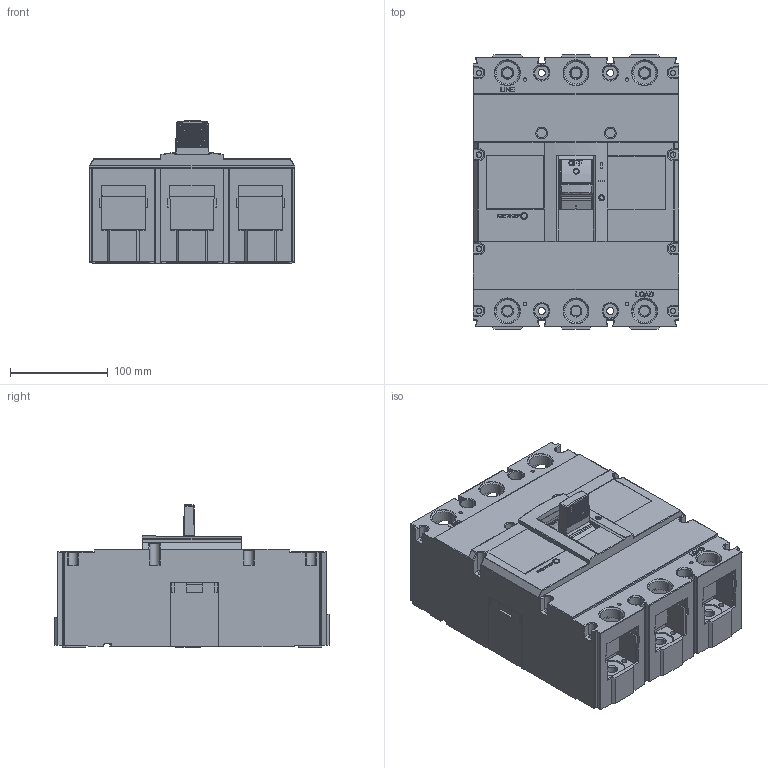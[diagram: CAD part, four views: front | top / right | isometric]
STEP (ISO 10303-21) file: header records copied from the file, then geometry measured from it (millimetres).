
FILE_DESCRIPTION((''),'2;1');
FILE_NAME('2256021200-CDM3-800-3_SW0001','2019-10-22T',('gang.sun'),(''),'PRO/ENGINEER BY PARAMETRIC TECHNOLOGY CORPORATION, 2015440','PRO/ENGINEER BY PARAMETRIC TECHNOLOGY CORPORATION, 2015440','');
FILE_SCHEMA(('CONFIG_CONTROL_DESIGN'));
Products named in the file (1): 2256021200-CDM3-800-3_SW0001
Bounding box: 210 x 280 x 145.72 mm (x, y, z)
Volume: 5021916.1 mm3; surface area: 478697 mm2
Topology: 1 solids, 2 shells, 2732 faces, 7579 edges, 4879 vertices
Faces by surface type: plane 1762, cylinder 623, extrusion 103, torus 82, cone 71, bspline 59, sphere 32
Entity records: 92145 total; most frequent: CARTESIAN_POINT 22271, ORIENTED_EDGE 15076, DIRECTION 13730, EDGE_CURVE 7538, VECTOR 5630, LINE 5527, VERTEX_POINT 4879, AXIS2_PLACEMENT_3D 4050
